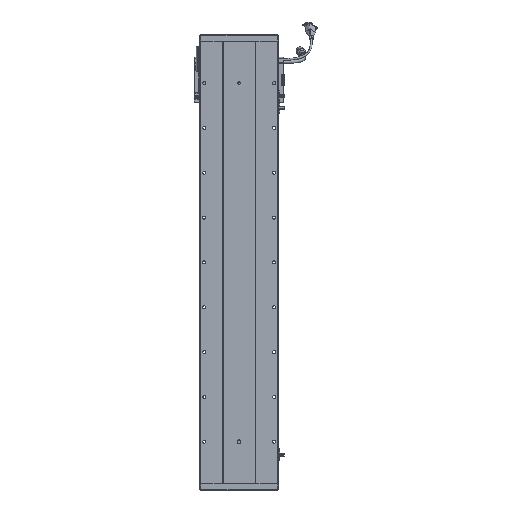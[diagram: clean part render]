
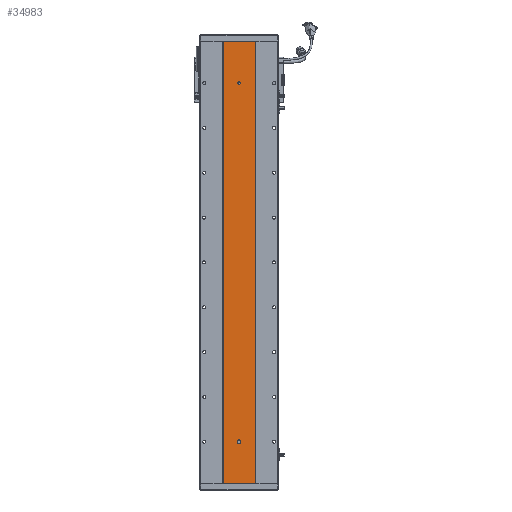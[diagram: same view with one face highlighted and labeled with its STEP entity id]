
A CAD part, front view. The second image highlights one B-rep face of the part: STEP entity #34983.
In plain terms, the highlighted planar face has unit normal (0, -1, 0).
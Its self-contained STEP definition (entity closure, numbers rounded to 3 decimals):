
#350 = VECTOR ( 'NONE', #53259, 1000. ) ;
#537 = AXIS2_PLACEMENT_3D ( 'NONE', #37109, #17975, #43021 ) ;
#2308 = CIRCLE ( 'NONE', #65510, 3. ) ;
#2658 = VERTEX_POINT ( 'NONE', #43115 ) ;
#2735 = EDGE_LOOP ( 'NONE', ( #41594, #14451, #59498, #12118 ) ) ;
#4270 = DIRECTION ( 'NONE',  ( 0., 0., -1. ) ) ;
#4880 = EDGE_CURVE ( 'NONE', #13641, #31259, #10107, .T. ) ;
#5902 = VECTOR ( 'NONE', #4270, 1000. ) ;
#8927 = AXIS2_PLACEMENT_3D ( 'NONE', #78846, #39539, #27180 ) ;
#10107 = CIRCLE ( 'NONE', #57084, 3. ) ;
#10423 = LINE ( 'NONE', #47078, #350 ) ;
#10808 = EDGE_CURVE ( 'NONE', #64199, #13641, #10423, .T. ) ;
#11420 = DIRECTION ( 'NONE',  ( 0., 0., -1. ) ) ;
#12118 = ORIENTED_EDGE ( 'NONE', *, *, #50945, .T. ) ;
#13641 = VERTEX_POINT ( 'NONE', #56507 ) ;
#13733 = EDGE_LOOP ( 'NONE', ( #31818, #59892, #63787, #75227, #24147 ) ) ;
#13758 = VERTEX_POINT ( 'NONE', #19342 ) ;
#13788 = VERTEX_POINT ( 'NONE', #58146 ) ;
#14053 = DIRECTION ( 'NONE',  ( 0., 0., 1. ) ) ;
#14451 = ORIENTED_EDGE ( 'NONE', *, *, #64142, .F. ) ;
#14707 = CARTESIAN_POINT ( 'NONE',  ( 3280.529, 1415.701, 893.5 ) ) ;
#14866 = VERTEX_POINT ( 'NONE', #77031 ) ;
#15912 = VERTEX_POINT ( 'NONE', #38367 ) ;
#16332 = EDGE_CURVE ( 'NONE', #15912, #24310, #57988, .T. ) ;
#17229 = EDGE_CURVE ( 'NONE', #44356, #23508, #45827, .T. ) ;
#17975 = DIRECTION ( 'NONE',  ( 0., -1., 0. ) ) ;
#19342 = CARTESIAN_POINT ( 'NONE',  ( 3244.748, 1415.701, 0. ) ) ;
#19474 = CARTESIAN_POINT ( 'NONE',  ( 3316.311, 1415.701, 987. ) ) ;
#22942 = CIRCLE ( 'NONE', #70018, 3. ) ;
#23007 = CIRCLE ( 'NONE', #8927, 3. ) ;
#23508 = VERTEX_POINT ( 'NONE', #19474 ) ;
#23736 = LINE ( 'NONE', #80336, #64010 ) ;
#24147 = ORIENTED_EDGE ( 'NONE', *, *, #26311, .F. ) ;
#24310 = VERTEX_POINT ( 'NONE', #55229 ) ;
#24526 = CARTESIAN_POINT ( 'NONE',  ( 3277.529, 1415.701, 95. ) ) ;
#25043 = CARTESIAN_POINT ( 'NONE',  ( 3244.748, 1415.701, 987. ) ) ;
#26311 = EDGE_CURVE ( 'NONE', #31259, #14866, #2308, .T. ) ;
#27083 = CARTESIAN_POINT ( 'NONE',  ( 3244.748, 1415.701, 987. ) ) ;
#27180 = DIRECTION ( 'NONE',  ( 0., 0., -1. ) ) ;
#30476 = CARTESIAN_POINT ( 'NONE',  ( 3316.311, 1415.701, 987. ) ) ;
#31175 = DIRECTION ( 'NONE',  ( 0., -1., 0. ) ) ;
#31259 = VERTEX_POINT ( 'NONE', #36443 ) ;
#31818 = ORIENTED_EDGE ( 'NONE', *, *, #4880, .F. ) ;
#32939 = FACE_BOUND ( 'NONE', #13733, .T. ) ;
#34188 = EDGE_CURVE ( 'NONE', #2658, #64199, #23007, .T. ) ;
#34983 = ADVANCED_FACE ( 'NONE', ( #32939, #62165, #57120 ), #53105, .F. ) ;
#36443 = CARTESIAN_POINT ( 'NONE',  ( 3280.529, 1415.701, 89. ) ) ;
#37109 = CARTESIAN_POINT ( 'NONE',  ( 3280.529, 1415.701, 893.5 ) ) ;
#37986 = EDGE_CURVE ( 'NONE', #24310, #15912, #22942, .T. ) ;
#38367 = CARTESIAN_POINT ( 'NONE',  ( 3280.529, 1415.701, 896.5 ) ) ;
#39368 = CARTESIAN_POINT ( 'NONE',  ( 3244.748, 1415.701, 987. ) ) ;
#39539 = DIRECTION ( 'NONE',  ( 0., -1., 0. ) ) ;
#40770 = CARTESIAN_POINT ( 'NONE',  ( 3283.529, 1415.701, 95. ) ) ;
#41594 = ORIENTED_EDGE ( 'NONE', *, *, #58122, .T. ) ;
#42960 = DIRECTION ( 'NONE',  ( 0., -1., 0. ) ) ;
#43021 = DIRECTION ( 'NONE',  ( 0., 0., -1. ) ) ;
#43115 = CARTESIAN_POINT ( 'NONE',  ( 3283.529, 1415.701, 95. ) ) ;
#44356 = VERTEX_POINT ( 'NONE', #66111 ) ;
#45827 = LINE ( 'NONE', #27083, #60940 ) ;
#46210 = ORIENTED_EDGE ( 'NONE', *, *, #37986, .F. ) ;
#46213 = ORIENTED_EDGE ( 'NONE', *, *, #16332, .F. ) ;
#47078 = CARTESIAN_POINT ( 'NONE',  ( 3277.529, 1415.701, 95. ) ) ;
#48935 = LINE ( 'NONE', #25043, #61021 ) ;
#50426 = AXIS2_PLACEMENT_3D ( 'NONE', #39368, #77839, #14053 ) ;
#50945 = EDGE_CURVE ( 'NONE', #44356, #13758, #48935, .T. ) ;
#51846 = EDGE_LOOP ( 'NONE', ( #46210, #46213 ) ) ;
#53105 = PLANE ( 'NONE',  #50426 ) ;
#53259 = DIRECTION ( 'NONE',  ( 0., 0., -1. ) ) ;
#55229 = CARTESIAN_POINT ( 'NONE',  ( 3280.529, 1415.701, 890.5 ) ) ;
#56507 = CARTESIAN_POINT ( 'NONE',  ( 3277.529, 1415.701, 92. ) ) ;
#56987 = CARTESIAN_POINT ( 'NONE',  ( 3280.529, 1415.701, 92. ) ) ;
#57084 = AXIS2_PLACEMENT_3D ( 'NONE', #69672, #31175, #82326 ) ;
#57120 = FACE_OUTER_BOUND ( 'NONE', #2735, .T. ) ;
#57988 = CIRCLE ( 'NONE', #537, 3. ) ;
#58122 = EDGE_CURVE ( 'NONE', #13758, #13788, #23736, .T. ) ;
#58146 = CARTESIAN_POINT ( 'NONE',  ( 3316.311, 1415.701, 0. ) ) ;
#59498 = ORIENTED_EDGE ( 'NONE', *, *, #17229, .F. ) ;
#59892 = ORIENTED_EDGE ( 'NONE', *, *, #10808, .F. ) ;
#60187 = DIRECTION ( 'NONE',  ( 0., 0., 1. ) ) ;
#60940 = VECTOR ( 'NONE', #72339, 1000. ) ;
#61021 = VECTOR ( 'NONE', #70028, 1000. ) ;
#61301 = VECTOR ( 'NONE', #60187, 1000. ) ;
#61422 = DIRECTION ( 'NONE',  ( 0., 0., -1. ) ) ;
#62165 = FACE_BOUND ( 'NONE', #51846, .T. ) ;
#62654 = DIRECTION ( 'NONE',  ( 1., 0., 0. ) ) ;
#63787 = ORIENTED_EDGE ( 'NONE', *, *, #34188, .F. ) ;
#64010 = VECTOR ( 'NONE', #62654, 1000. ) ;
#64142 = EDGE_CURVE ( 'NONE', #23508, #13788, #80412, .T. ) ;
#64199 = VERTEX_POINT ( 'NONE', #24526 ) ;
#65510 = AXIS2_PLACEMENT_3D ( 'NONE', #56987, #42960, #11420 ) ;
#66111 = CARTESIAN_POINT ( 'NONE',  ( 3244.748, 1415.701, 987. ) ) ;
#69672 = CARTESIAN_POINT ( 'NONE',  ( 3280.529, 1415.701, 92. ) ) ;
#70018 = AXIS2_PLACEMENT_3D ( 'NONE', #14707, #80199, #61422 ) ;
#70028 = DIRECTION ( 'NONE',  ( 0., 0., -1. ) ) ;
#70078 = EDGE_CURVE ( 'NONE', #14866, #2658, #79313, .T. ) ;
#72339 = DIRECTION ( 'NONE',  ( 1., 0., 0. ) ) ;
#75227 = ORIENTED_EDGE ( 'NONE', *, *, #70078, .F. ) ;
#77031 = CARTESIAN_POINT ( 'NONE',  ( 3283.529, 1415.701, 92. ) ) ;
#77839 = DIRECTION ( 'NONE',  ( 0., 1., 0. ) ) ;
#78846 = CARTESIAN_POINT ( 'NONE',  ( 3280.529, 1415.701, 95. ) ) ;
#79313 = LINE ( 'NONE', #40770, #61301 ) ;
#80199 = DIRECTION ( 'NONE',  ( 0., -1., 0. ) ) ;
#80336 = CARTESIAN_POINT ( 'NONE',  ( 3244.748, 1415.701, 0. ) ) ;
#80412 = LINE ( 'NONE', #30476, #5902 ) ;
#82326 = DIRECTION ( 'NONE',  ( 0., 0., -1. ) ) ;
